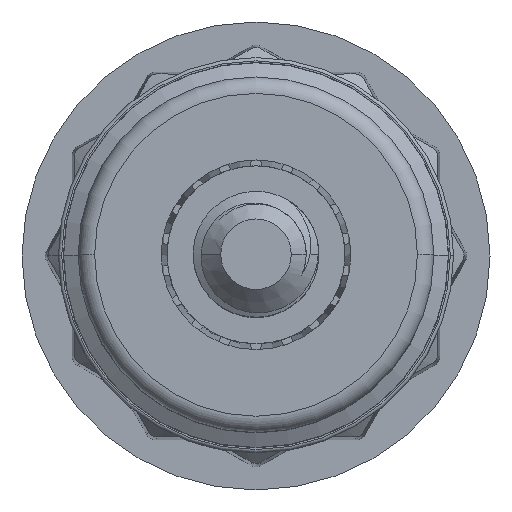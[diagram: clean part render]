
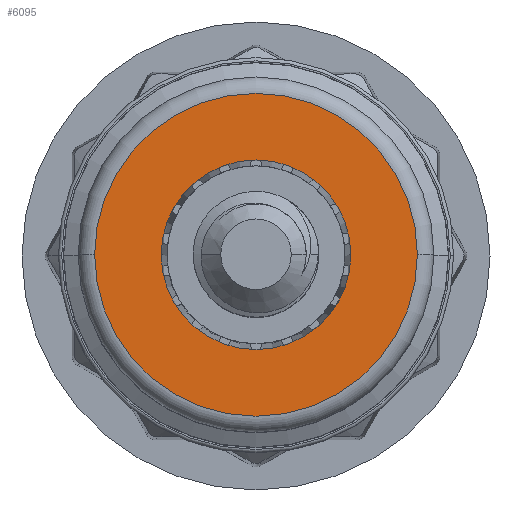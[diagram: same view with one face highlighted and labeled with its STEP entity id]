
A CAD part, top view. The second image highlights one B-rep face of the part: STEP entity #6095.
In plain terms, the highlighted planar face has unit normal (0, 0, 1).
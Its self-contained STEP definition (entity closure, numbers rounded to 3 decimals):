
#81 = AXIS2_PLACEMENT_3D ( 'NONE', #2286, #9395, #668 ) ;
#127 = DIRECTION ( 'NONE',  ( 0., 0., -1. ) ) ;
#668 = DIRECTION ( 'NONE',  ( 1., 0., 0. ) ) ;
#778 = PLANE ( 'NONE',  #8730 ) ;
#836 = CARTESIAN_POINT ( 'NONE',  ( 0., 0., 24. ) ) ;
#864 = DIRECTION ( 'NONE',  ( 0., 0., 1. ) ) ;
#889 = AXIS2_PLACEMENT_3D ( 'NONE', #10137, #5405, #5629 ) ;
#1419 = CARTESIAN_POINT ( 'NONE',  ( 4.9, 0., 24. ) ) ;
#1541 = AXIS2_PLACEMENT_3D ( 'NONE', #836, #6460, #7291 ) ;
#1671 = EDGE_CURVE ( 'NONE', #9619, #5268, #9511, .T. ) ;
#1939 = ORIENTED_EDGE ( 'NONE', *, *, #5560, .F. ) ;
#2286 = CARTESIAN_POINT ( 'NONE',  ( 0., 0., 24. ) ) ;
#2288 = EDGE_CURVE ( 'NONE', #6390, #7573, #6410, .T. ) ;
#2545 = ORIENTED_EDGE ( 'NONE', *, *, #1671, .F. ) ;
#2936 = ORIENTED_EDGE ( 'NONE', *, *, #5606, .T. ) ;
#3451 = CARTESIAN_POINT ( 'NONE',  ( -2.879, 0., 24. ) ) ;
#3796 = CIRCLE ( 'NONE', #8867, 4.9 ) ;
#5021 = EDGE_LOOP ( 'NONE', ( #2545, #1939 ) ) ;
#5268 = VERTEX_POINT ( 'NONE', #3451 ) ;
#5405 = DIRECTION ( 'NONE',  ( 0., 0., 1. ) ) ;
#5560 = EDGE_CURVE ( 'NONE', #5268, #9619, #6886, .T. ) ;
#5606 = EDGE_CURVE ( 'NONE', #7573, #6390, #3796, .T. ) ;
#5629 = DIRECTION ( 'NONE',  ( 1., 0., 0. ) ) ;
#6095 = ADVANCED_FACE ( 'NONE', ( #8331, #10201 ), #778, .F. ) ;
#6304 = DIRECTION ( 'NONE',  ( -1., 0., 0. ) ) ;
#6390 = VERTEX_POINT ( 'NONE', #7532 ) ;
#6410 = CIRCLE ( 'NONE', #1541, 4.9 ) ;
#6460 = DIRECTION ( 'NONE',  ( 0., 0., 1. ) ) ;
#6886 = CIRCLE ( 'NONE', #81, 2.879 ) ;
#7291 = DIRECTION ( 'NONE',  ( -1., 0., 0. ) ) ;
#7532 = CARTESIAN_POINT ( 'NONE',  ( -4.9, 0., 24. ) ) ;
#7573 = VERTEX_POINT ( 'NONE', #1419 ) ;
#7996 = EDGE_LOOP ( 'NONE', ( #9486, #2936 ) ) ;
#8229 = CARTESIAN_POINT ( 'NONE',  ( 2.879, 0., 24. ) ) ;
#8331 = FACE_OUTER_BOUND ( 'NONE', #7996, .T. ) ;
#8730 = AXIS2_PLACEMENT_3D ( 'NONE', #9568, #127, #6304 ) ;
#8756 = DIRECTION ( 'NONE',  ( -1., 0., 0. ) ) ;
#8867 = AXIS2_PLACEMENT_3D ( 'NONE', #9499, #864, #8756 ) ;
#9395 = DIRECTION ( 'NONE',  ( 0., 0., 1. ) ) ;
#9486 = ORIENTED_EDGE ( 'NONE', *, *, #2288, .T. ) ;
#9499 = CARTESIAN_POINT ( 'NONE',  ( 0., 0., 24. ) ) ;
#9511 = CIRCLE ( 'NONE', #889, 2.879 ) ;
#9568 = CARTESIAN_POINT ( 'NONE',  ( 0., 5.4, 24. ) ) ;
#9619 = VERTEX_POINT ( 'NONE', #8229 ) ;
#10137 = CARTESIAN_POINT ( 'NONE',  ( 0., 0., 24. ) ) ;
#10201 = FACE_BOUND ( 'NONE', #5021, .T. ) ;
